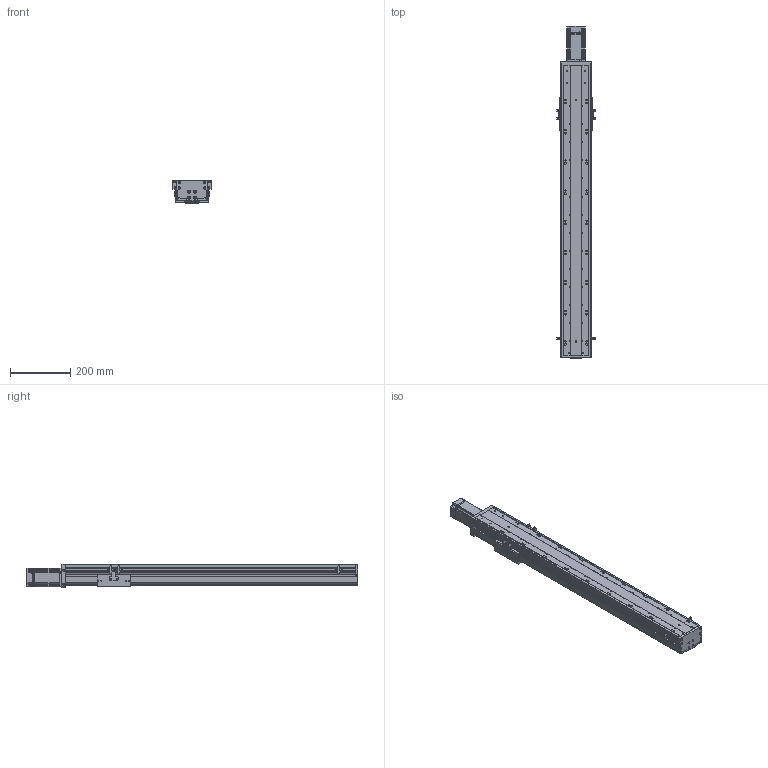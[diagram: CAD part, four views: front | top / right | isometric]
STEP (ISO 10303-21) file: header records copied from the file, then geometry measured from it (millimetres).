
FILE_DESCRIPTION (( 'STEP AP203' ), '1' );
FILE_NAME ('RY100FBS-L1610-300-MK(15双轨）.SLDASM_700.step', '2021-02-22T08:44:26', ( '盈信电脑' ), ( '东莞市道滘镇水果街19号' ), 'SwSTEP 2.0', 'SolidWorks 2012', '' );
FILE_SCHEMA (( 'CONFIG_CONTROL_DESIGN' ));
Length unit declared in the file: millimetre
Products named in the file (12): 侂狟400W侜督萇儂; RY100FB-遵嫖萇覜茼え; 覜茼ん672; 15; RY100FBS-后盖板(15双轨）; RY100FBS-300-上盖板(15双轨）_700; RY100FBS-前盖板(15双轨）; 滅袉蝶18-15; 滅袉蝶18-24; RY100FBS-铝滑块（16丝杆）; RY100FBS-300型材底座(15双轨）_700; RY100FBS-L1610-300-MK(15双轨）.SLDASM_700
Assembly tree (18 placements, depth 3):
  RY100FBS-L1610-300-MK(15双轨）.SLDASM_700
    RY100FBS-300型材底座(15双轨）_700
    滅袉蝶18-24  x2
    滅袉蝶18-15
    RY100FBS-铝滑块（16丝杆）
    RY100FBS-300-上盖板(15双轨）_700
    RY100FBS-前盖板(15双轨）
    RY100FBS-后盖板(15双轨）
    侂狟400W侜督萇儂
      15
    RY100FB-遵嫖萇覜茼え  x2
    覜茼ん672  x6
Bounding box: 127.4 x 1100.5 x 78.75 mm (x, y, z)
Volume: 2558345.5 mm3; surface area: 899116 mm2
Topology: 17 solids, 17 shells, 1819 faces, 5191 edges, 3404 vertices
Faces by surface type: plane 877, cylinder 810, cone 114, bspline 18
Entity records: 48512 total; most frequent: CARTESIAN_POINT 10155, DIRECTION 7834, ORIENTED_EDGE 7726, EDGE_CURVE 3863, AXIS2_PLACEMENT_3D 2841, VERTEX_POINT 2552, VECTOR 2152, LINE 2152
